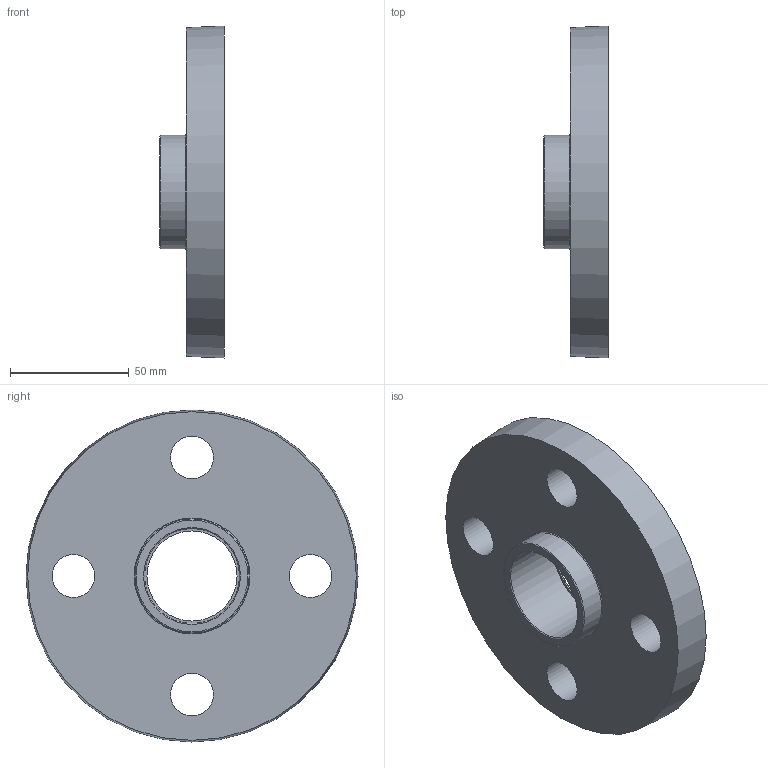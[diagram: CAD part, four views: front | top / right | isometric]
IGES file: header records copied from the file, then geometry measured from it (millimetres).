
Global section: file name: 059200040.ipt; native system: Autodesk Inventor 2015; preprocessor: unknown; author: KIM; date: 20180927.115458; units: millimetre
Bounding box: 27 x 140 x 140 mm (x, y, z)
Volume: 213569.4 mm3; surface area: 41987.4 mm2
Topology: 1 solids, 1 shells, 28 faces, 62 edges, 44 vertices
Faces by surface type: revolution 13, plane 10, cylinder 4, cone 1
Full cylindrical faces by diameter (mm): 40.2 x1, 43 x1, 45.8 x1, 48 x1
